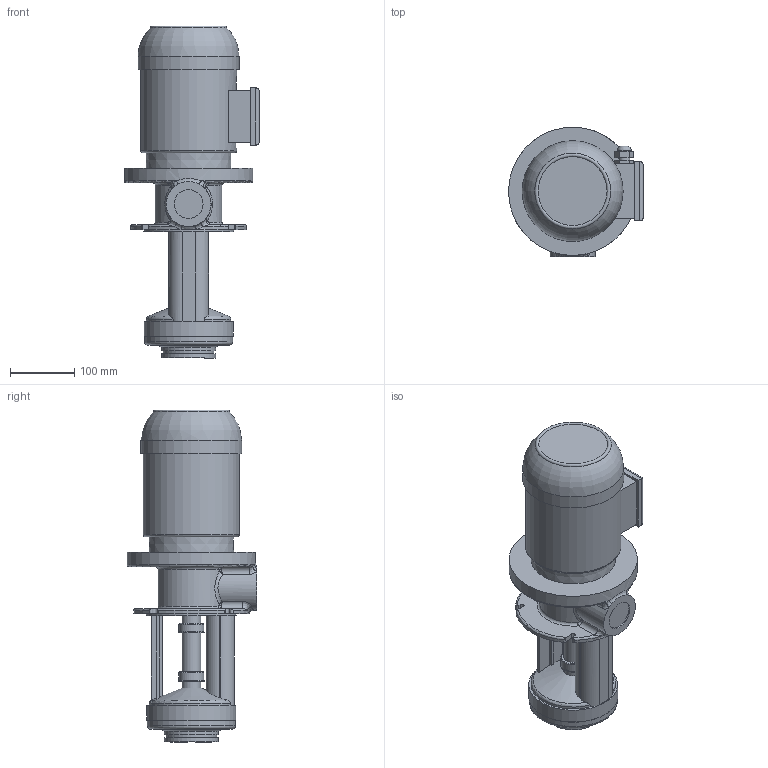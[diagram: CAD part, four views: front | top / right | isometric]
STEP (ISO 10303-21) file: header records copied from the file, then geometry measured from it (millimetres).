
FILE_DESCRIPTION(/* description */ ('Unknown'),/* implementation_level */ '2;1');
FILE_NAME(/* name */ 'GPF 200',/* time_stamp */ '2025-06-17T14:07:43+03:00',/* author */ ('Unknown'),/* organization */ ('Unknown'),/* preprocessor_version */ 'ST-DEVELOPER v16.7',/* originating_system */ 'DEX',/* authorisation */ $);
FILE_SCHEMA (('AUTOMOTIVE_DESIGN {1 0 10303 214 3 1 1}'));
Length unit declared in the file: millimetre
Products named in the file (1): GPF 200
Bounding box: 210.5 x 202 x 517.57 mm (x, y, z)
Volume: 7031620 mm3; surface area: 372943.2 mm2
Topology: 1 solids, 1 shells, 276 faces, 668 edges, 429 vertices
Faces by surface type: plane 98, bspline 86, cylinder 65, torus 14, cone 13
Full cylindrical faces by diameter (mm): 17 x1, 21.5 x1, 23.451 x1, 29 x3, 33 x2, 35 x2, 39 x2, 40.5 x2, 45 x1, 65.927 x1, 70 x1, 79 x1, 84 x2, 137 x1, 139 x1, 140 x1, 149.426 x1, 200 x1
Entity records: 10644 total; most frequent: CARTESIAN_POINT 4922, ORIENTED_EDGE 1226, DIRECTION 955, EDGE_CURVE 613, VERTEX_POINT 422, EDGE_LOOP 363, FACE_BOUND 363, AXIS2_PLACEMENT_3D 354
